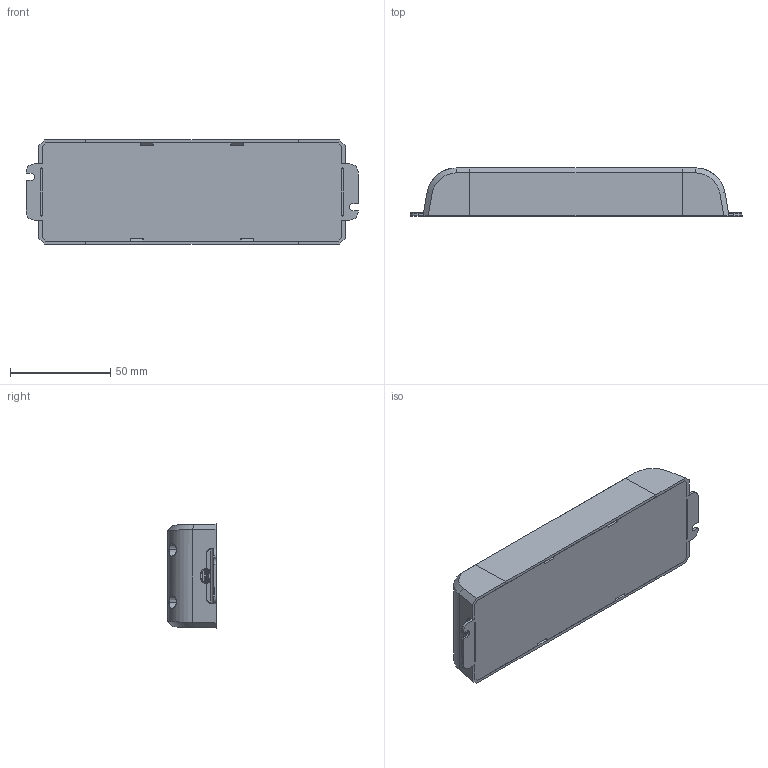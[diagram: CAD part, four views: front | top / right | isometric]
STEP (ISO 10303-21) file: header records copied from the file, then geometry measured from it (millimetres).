
FILE_DESCRIPTION((''),'2;1');
FILE_NAME('ASM0001_ASM_74_ASM','2016-10-31T',('017263'),(''),'CREO PARAMETRIC BY PTC INC, 2014440','CREO PARAMETRIC BY PTC INC, 2014440','');
FILE_SCHEMA(('CONFIG_CONTROL_DESIGN'));
Length unit declared in the file: millimetre
Products named in the file (4): BOTTOM_207; TOP_177; COVER_112; ASM0001_ASM_74_ASM
Assembly tree (4 placements, depth 2):
  ASM0001_ASM_74_ASM
    BOTTOM_207
    TOP_177
    COVER_112  x2
Bounding box: 165.95 x 24 x 52 mm (x, y, z)
Volume: 44827.2 mm3; surface area: 64725.7 mm2
Topology: 4 solids, 4 shells, 788 faces, 2207 edges, 1429 vertices
Faces by surface type: plane 528, cylinder 148, bspline 64, cone 28, torus 12, sphere 8
Entity records: 30908 total; most frequent: CARTESIAN_POINT 8722, ORIENTED_EDGE 3646, DIRECTION 3130, PRESENTATION_STYLE_ASSIGNMENT 1826, STYLED_ITEM 1826, CURVE_STYLE 1823, EDGE_CURVE 1823, VECTOR 1344
